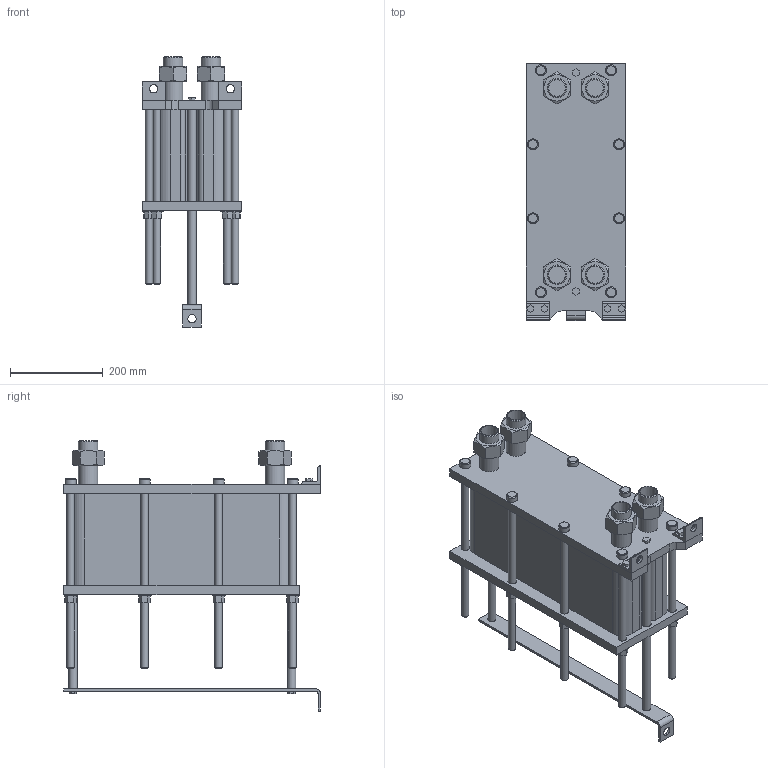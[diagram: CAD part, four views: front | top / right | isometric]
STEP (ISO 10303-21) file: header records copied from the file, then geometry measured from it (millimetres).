
FILE_DESCRIPTION(/* description */ (''),/* implementation_level */ '2;1');
FILE_NAME(/* name */ 'C:\Users\zhuro\Desktop\ENCO\TO\ЭН-004\ЭН-0,5-004-64-1.stp',/* time_stamp */ '2022-06-06T10:48:29+03:00',/* author */ ('zhuro'),/* organization */ (''),/* preprocessor_version */ 'ST-DEVELOPER v18.1',/* originating_system */ 'Autodesk Inventor 2022',/* authorisation */ '');
FILE_SCHEMA (('AUTOMOTIVE_DESIGN { 1 0 10303 214 3 1 1 }'));
Length unit declared in the file: millimetre
Products named in the file (1): ЭН-0,5-004-64-1
Bounding box: 216 x 555 x 584.2 mm (x, y, z)
Volume: 20507389.8 mm3; surface area: 1388467.5 mm2
Topology: 40 solids, 40 shells, 403 faces, 865 edges, 574 vertices
Faces by surface type: plane 272, cylinder 103, cone 28
Full cylindrical faces by diameter (mm): 10 x4, 16 x16, 18 x29, 20 x2, 24 x8, 28 x8, 36.3 x5, 42.3 x9
Entity records: 11137 total; most frequent: CARTESIAN_POINT 1939, DIRECTION 1879, ORIENTED_EDGE 1730, EDGE_CURVE 865, AXIS2_PLACEMENT_3D 658, VERTEX_POINT 574, LINE 563, VECTOR 563
